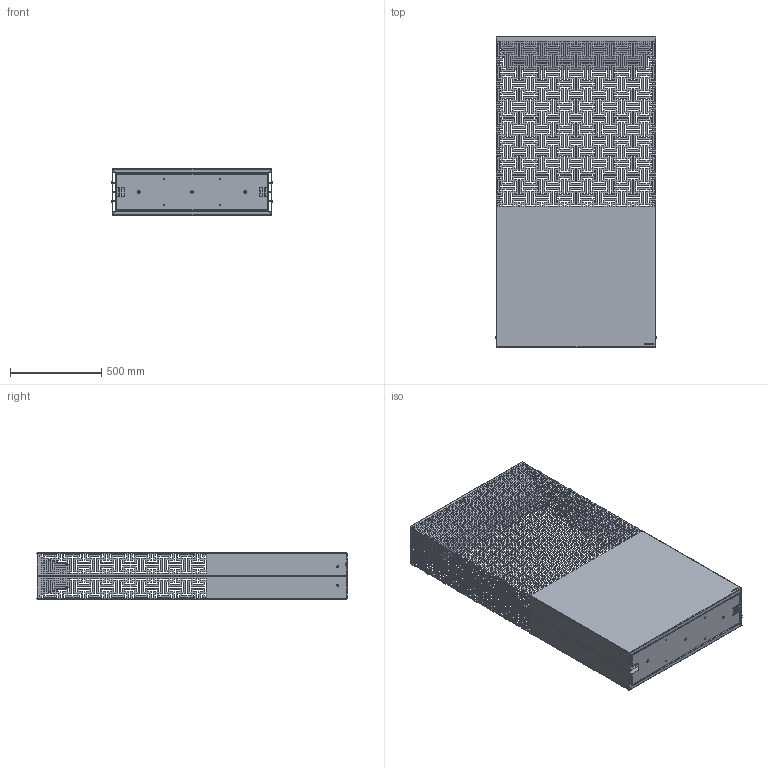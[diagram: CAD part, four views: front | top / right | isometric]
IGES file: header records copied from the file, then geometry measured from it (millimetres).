
Start section: SolidWorks IGES file using analytic representation for surfaces
Global section: file name: C:\VaultDeCastelli\Progetti\DC\PESO LEGGERO PRODOTTI\Ale\DeCastelli-3D-Demetra 170.igs; native system: SolidWorks 2022; preprocessor: SolidWorks 2022; author: AlessandroP; date: 240802.102835; units: millimetre
Bounding box: 881.6 x 1702.45 x 252.4 mm (x, y, z)
Surface area: 7358129.1 mm2 (no closed solid volume)
Topology: 0 solids, 0 shells, 4198 faces, 33467 edges, 33467 vertices
Faces by surface type: bspline 4064, revolution 134
